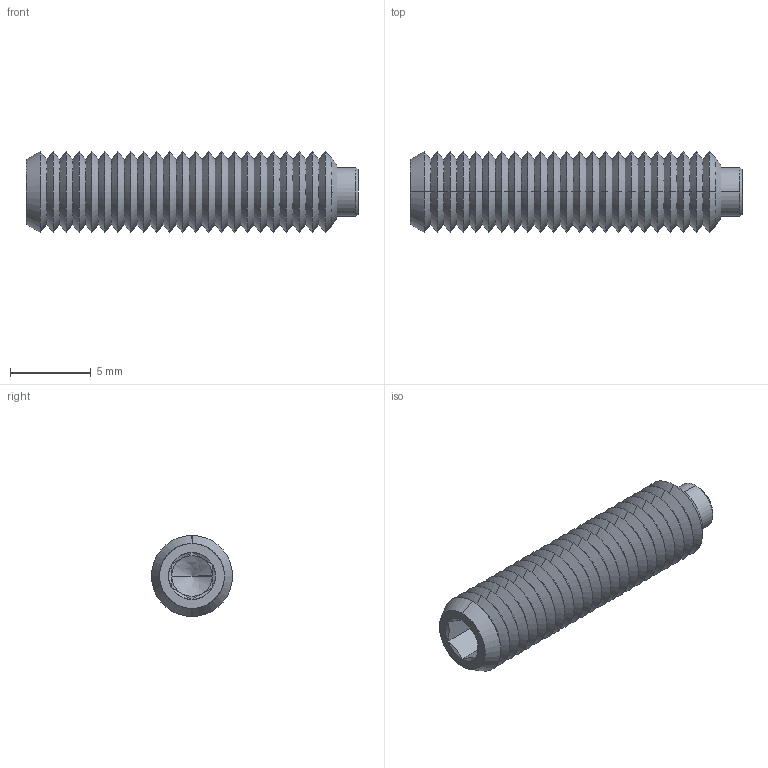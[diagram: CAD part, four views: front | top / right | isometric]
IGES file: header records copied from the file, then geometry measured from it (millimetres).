
Start section: SolidWorks IGES file using analytic representation for surfaces
Global section: file name: C:\Users\IanO\Desktop\P0120_v2_230406\P0120_v2_20230506_IGES\P0120.050-020.igs; native system: SolidWorks 2019; preprocessor: SolidWorks 2019; author: IanO; date: 230406.142337; units: millimetre
Bounding box: 20.5 x 5 x 5 mm (x, y, z)
Surface area: 520.4 mm2 (no closed solid volume)
Topology: 0 solids, 0 shells, 127 faces, 754 edges, 752 vertices
Faces by surface type: revolution 110, bspline 17
